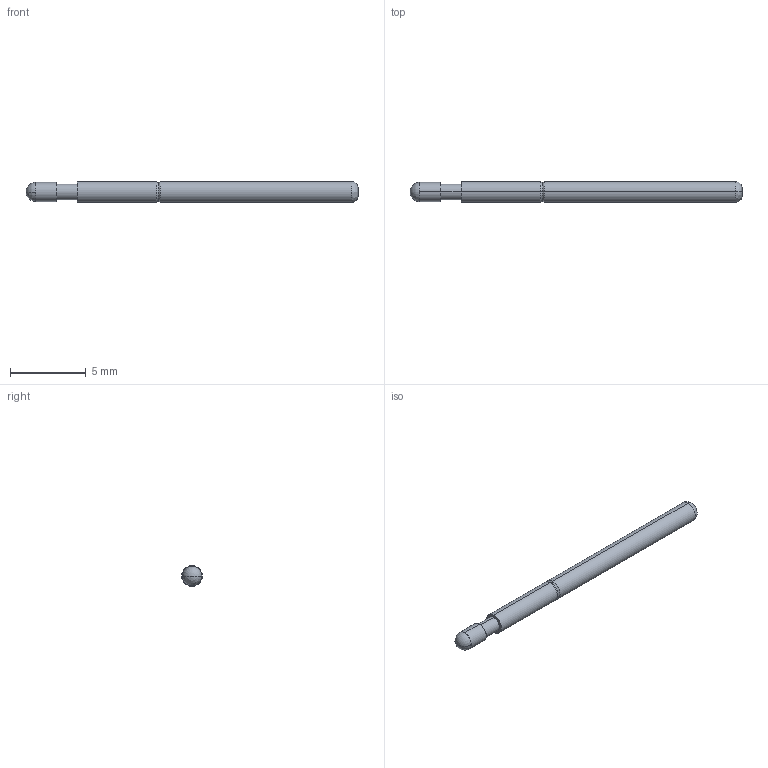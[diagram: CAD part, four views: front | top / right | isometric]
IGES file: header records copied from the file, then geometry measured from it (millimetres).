
Start section: SolidWorks IGES file using analytic representation for surfaces
Global section: file name: Z:\probe solid model mockups\Solidworks models\IGES Files\EPA-2\EPA-2D RECD.IGS; native system: SolidWorks 2006 by SolidWorks Corporation; preprocessor: SolidWorks 2006 by SolidWorks Corporation; author: tsakatani; date: 071220.161709; units: inch
Bounding box: 21.92 x 1.37 x 1.37 mm (x, y, z)
Surface area: 94.2 mm2 (no closed solid volume)
Topology: 0 solids, 0 shells, 19 faces, 148 edges, 146 vertices
Faces by surface type: revolution 10, bspline 9
